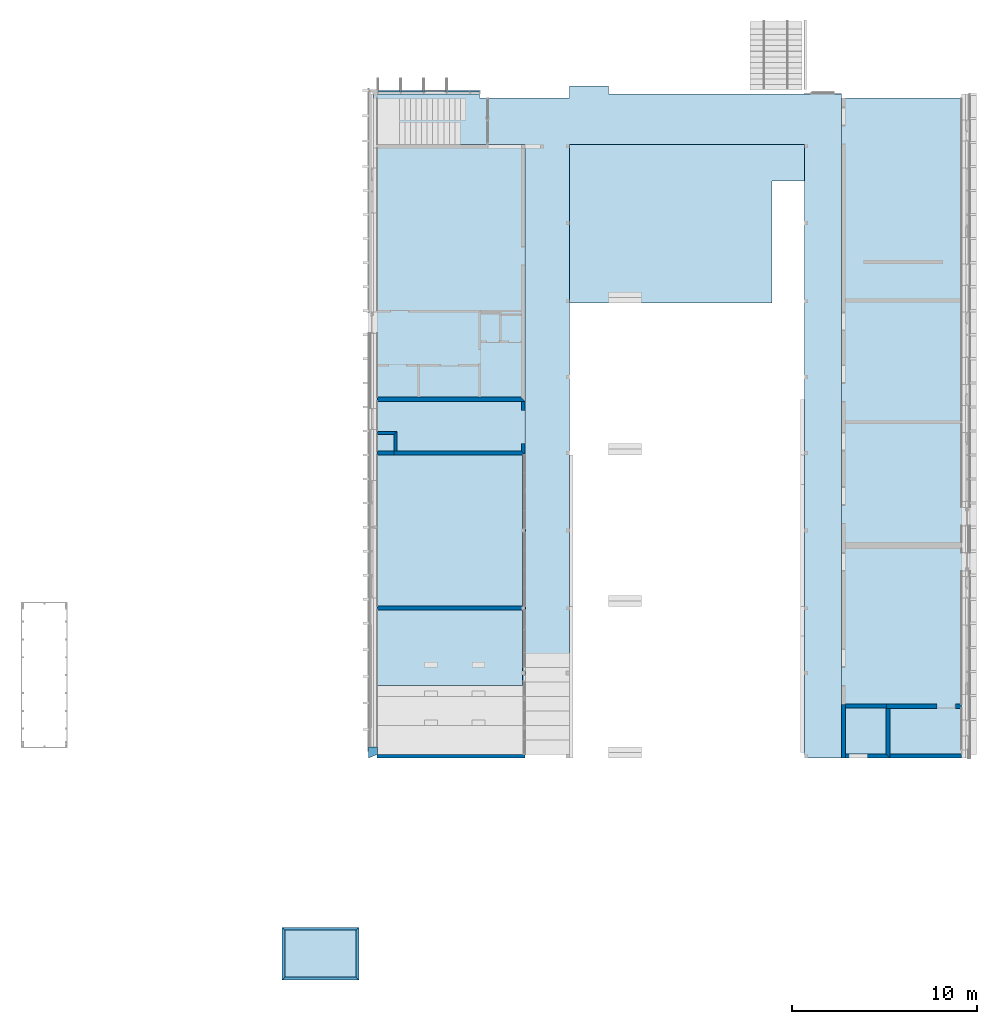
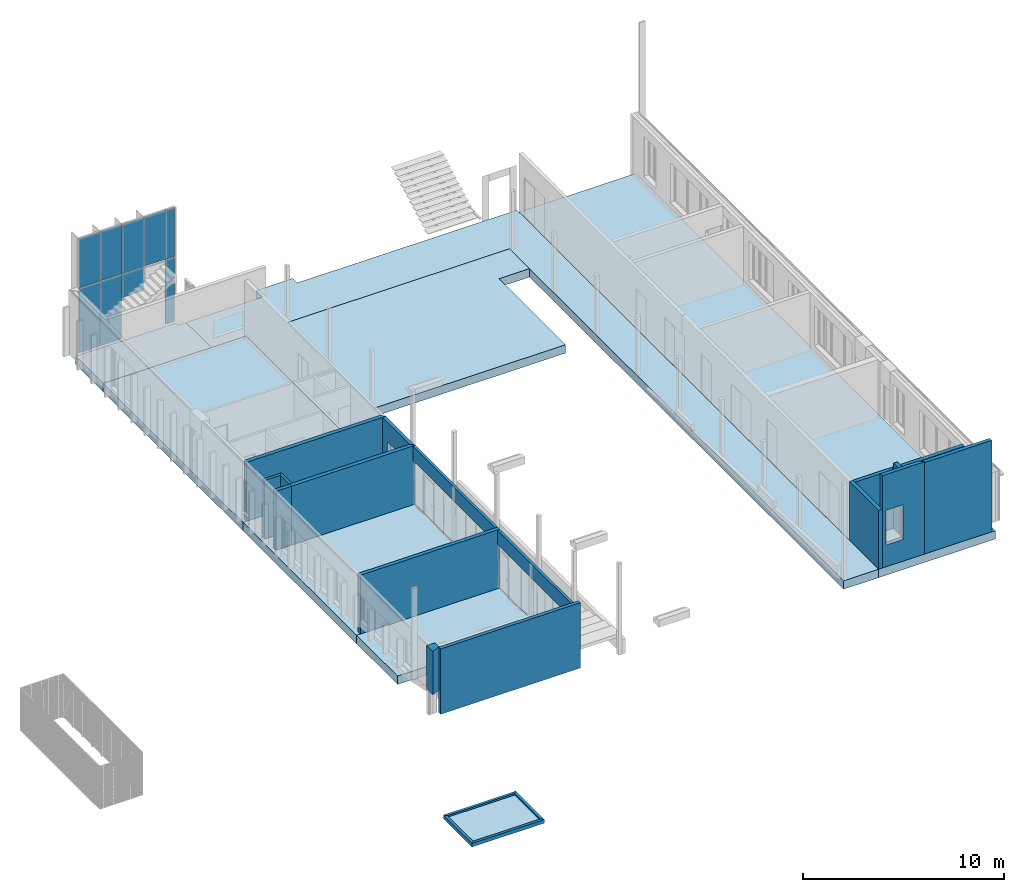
# One storey, part 8 of 65: 16 walls, 12 slabs, 9 plates, 3 openings, 1 element without a shape of its own.
"""IFC2X3 building model written with IfcOpenShell, lengths in millimetres."""

from ifc_helpers import new_model, entity, si_unit, converted_unit, derived_unit, money_unit, direction, frame, origin_with_axes, origin_2d_with_axis, place, context, subcontext, project, spatial, polyline, rectangle, outline, extrude, faceted_brep, material, layer, layer_set, layer_usage, type_object, element, aggregate, save


model = new_model("IFC2X3")

# Units and contexts
model_context = context("Model", 3, precision=0.01, world=origin_with_axes(), true_north=direction((0.0, 1.0)))
body_context = subcontext(model_context, "Body", "Model", "MODEL_VIEW")
ifc_project = project(units=[si_unit("LENGTHUNIT", "METRE", prefix="MILLI"), si_unit("AREAUNIT", "SQUARE_METRE"), si_unit("VOLUMEUNIT", "CUBIC_METRE"), converted_unit("PLANEANGLEUNIT", "DEGREE", entity("IfcPlaneAngleMeasure", 0.0174532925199), si_unit("PLANEANGLEUNIT", "RADIAN"), dimensions=[0, 0, 0, 0, 0, 0, 0]), si_unit("SOLIDANGLEUNIT", "STERADIAN"), money_unit("EUR"), converted_unit("TIMEUNIT", "Year", entity("IfcTimeMeasure", 31556926.0), si_unit("TIMEUNIT", "SECOND"), dimensions=[0, 0, 1, 0, 0, 0, 0]), si_unit("MASSUNIT", "GRAM", prefix="KILO"), si_unit("THERMODYNAMICTEMPERATUREUNIT", "DEGREE_CELSIUS"), si_unit("LUMINOUSINTENSITYUNIT", "LUMEN"), si_unit("ENERGYUNIT", "JOULE", prefix="MEGA"), derived_unit("THERMALCONDUCTANCEUNIT", [(si_unit("POWERUNIT", "WATT"), 1), (si_unit("LENGTHUNIT", "METRE"), -1), (si_unit("THERMODYNAMICTEMPERATUREUNIT", "KELVIN"), -1)]), derived_unit("SPECIFICHEATCAPACITYUNIT", [(si_unit("ENERGYUNIT", "JOULE"), 1), (si_unit("MASSUNIT", "GRAM", prefix="KILO"), -1), (si_unit("THERMODYNAMICTEMPERATUREUNIT", "KELVIN"), -1)]), derived_unit("MASSDENSITYUNIT", [(si_unit("MASSUNIT", "GRAM", prefix="KILO"), 1), (si_unit("VOLUMEUNIT", "CUBIC_METRE"), -1)])], contexts=[model_context])

# Site, building, storey
site_placement = place(None, origin_with_axes())
site = spatial("IfcSite", under=ifc_project, at=site_placement, Name="Puškini 31, Narva", CompositionType="ELEMENT")
building_placement = place(site_placement, origin_with_axes())
building = spatial("IfcBuilding", under=site, at=building_placement, Name="Narva Riigigümnaasium", CompositionType="ELEMENT")
storey_placement = place(building_placement, frame((0.0, 0.0, -1320.0), z_axis=(0.0, 0.0, 1.0), x_axis=(1.0, 0.0, 0.0)))
storey = spatial("IfcBuildingStorey", under=building, at=storey_placement, Name="1.korrus -1.32", CompositionType="ELEMENT", Elevation=-1320.0)

# Curtain wall, plates
curtain_wall_type = type_object("IfcCurtainWallType", Name="Curtain Wall Type", PredefinedType="NOTDEFINED")
curtain_wall_placement = place(storey_placement, frame((23044.9999985, 195055.000005, -0.000275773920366), z_axis=(0.0, 0.0, 1.0), x_axis=(1.0, 0.0, 0.0)))
curtain_wall = element("IfcCurtainWall", 1, at=curtain_wall_placement, inside=storey, type_object=curtain_wall_type, Name="G-KLF-04")
ifc_material_1 = material(Name="Klaas")
plate_type_1 = type_object("IfcPlateType", Name="Main Panel 1205 x 3915 x 58", PredefinedType="CURTAIN_PANEL")
plate_1_placement = place(curtain_wall_placement, frame((0.0, 0.0, 1980.00001312), z_axis=(0.0, 0.0, 1.0), x_axis=(-1.0, 0.0, 0.0)))
plate_1 = element("IfcPlate", 2, at=plate_1_placement, type_object=plate_type_1, material=ifc_material_1, Name="klaasfassaadi klaas", ObjectType="CURTAIN_PANEL", context=body_context, shape_type="SweptSolid", body=[
    extrude(outline(polyline([(-615.000027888, -1969.99999339), (590.000019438, -1969.99999339), (590.000019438, 1945.00003256), (-615.000027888, 1945.00003256), (-615.000027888, -1969.99999339)])), frame((0.0, -29.0, 0.0), z_axis=(0.0, 1.0, 0.0), x_axis=(1.0, 0.0, 0.0)), (0.0, 0.0, 1.0), 58.0),
])
plate_type_2 = type_object("IfcPlateType", Name="Main Panel 515 x 1450 x 58", PredefinedType="CURTAIN_PANEL")
plate_2_placement = place(curtain_wall_placement, frame((4599.0160704, 0.0, 2084.00010124), z_axis=(0.0, 0.0, 1.0), x_axis=(-1.0, 0.0, 0.0)))
plate_2 = element("IfcPlate", 3, at=plate_2_placement, type_object=plate_type_2, material=ifc_material_1, Name="klaasfassaadi klaas", ObjectType="CURTAIN_PANEL", context=body_context, shape_type="SweptSolid", body=[
    extrude(outline(polyline([(-301.024117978, -1865.99990527), (214.016050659, -1865.99990527), (214.016050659, 2049.00012068), (-301.024117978, 2049.00012068), (-301.024117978, -1865.99990527)])), frame((0.0, -29.0, 0.0), z_axis=(0.0, 1.0, 0.0), x_axis=(1.0, 0.0, 0.0)), (0.0, 0.0, 1.0), 58.0),
])
plate_type_3 = type_object("IfcPlateType", Name="Main Panel 1230 x 1450 x 58", PredefinedType="CURTAIN_PANEL")
plate_3_placement = place(curtain_wall_placement, frame((2379.99999812, 0.0, 3084.00019064), z_axis=(0.0, 0.0, 1.0), x_axis=(-1.0, 0.0, 0.0)))
plate_3 = element("IfcPlate", 4, at=plate_3_placement, type_object=plate_type_3, material=ifc_material_1, Name="klaasfassaadi klaas", ObjectType="CURTAIN_PANEL", context=body_context, shape_type="SweptSolid", body=[
    extrude(outline(polyline([(-735.000007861, -865.999844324), (495.000006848, -865.999844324), (495.000006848, 583.99989143), (480.000009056, 583.99989143), (480.000009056, 573.999878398), (-735.000007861, 573.999900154), (-735.000007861, -865.999844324)])), frame((0.0, -29.0, 0.0), z_axis=(0.0, 1.0, 0.0), x_axis=(1.0, 0.0, 0.0)), (0.0, 0.0, 1.0), 58.0),
])
plate_type_4 = type_object("IfcPlateType", Name="Main Panel 1205 x 2985 x 58", PredefinedType="CURTAIN_PANEL")
plate_4_placement = place(curtain_wall_placement, frame((0.0, 0.0, 5475.00010707), z_axis=(0.0, 0.0, 1.0), x_axis=(-1.0, 0.0, 0.0)))
plate_4 = element("IfcPlate", 5, at=plate_4_placement, type_object=plate_type_4, material=ifc_material_1, Name="klaasfassaadi klaas", ObjectType="CURTAIN_PANEL", context=body_context, shape_type="SweptSolid", body=[
    extrude(outline(polyline([(-615.000006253, -1480.00008611), (590.000005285, -1480.00008611), (590.000005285, 1505.00008879), (-615.000006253, 1505.00008879), (-615.000006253, -1480.00008611)])), frame((0.0, -29.0, 0.0), z_axis=(0.0, 1.0, 0.0), x_axis=(1.0, 0.0, 0.0)), (0.0, 0.0, 1.0), 58.0),
])
plate_type_5 = type_object("IfcPlateType", Name="Main Panel 1230 x 2985 x 58", PredefinedType="CURTAIN_PANEL")
plate_5_placement = place(curtain_wall_placement, frame((1250.0, 0.0, 5475.00010707), z_axis=(0.0, 0.0, 1.0), x_axis=(-1.0, 0.0, 0.0)))
plate_5 = element("IfcPlate", 6, at=plate_5_placement, type_object=plate_type_5, material=ifc_material_1, Name="klaasfassaadi klaas", ObjectType="CURTAIN_PANEL", context=body_context, shape_type="SweptSolid", body=[
    extrude(outline(polyline([(-615.000006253, -1480.00008611), (615.00000796, -1480.00008611), (615.00000796, 1505.00008879), (-615.000006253, 1505.00008879), (-615.000006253, -1480.00008611)])), frame((0.0, -29.0, 0.0), z_axis=(0.0, 1.0, 0.0), x_axis=(1.0, 0.0, 0.0)), (0.0, 0.0, 1.0), 58.0),
])
plate_6_placement = place(curtain_wall_placement, frame((2500.0, 0.0, 5475.00010707), z_axis=(0.0, 0.0, 1.0), x_axis=(-1.0, 0.0, 0.0)))
plate_6 = element("IfcPlate", 7, at=plate_6_placement, type_object=plate_type_5, material=ifc_material_1, Name="klaasfassaadi klaas", ObjectType="CURTAIN_PANEL", context=body_context, shape_type="SweptSolid", body=[
    extrude(outline(polyline([(-615.000006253, -1480.00008611), (615.00000796, -1480.00008611), (615.00000796, 1505.00008879), (-615.000006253, 1505.00008879), (-615.000006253, -1480.00008611)])), frame((0.0, -29.0, 0.0), z_axis=(0.0, 1.0, 0.0), x_axis=(1.0, 0.0, 0.0)), (0.0, 0.0, 1.0), 58.0),
])
plate_7_placement = place(curtain_wall_placement, frame((3750.0, 0.0, 5475.00010707), z_axis=(0.0, 0.0, 1.0), x_axis=(-1.0, 0.0, 0.0)))
plate_7 = element("IfcPlate", 8, at=plate_7_placement, type_object=plate_type_5, material=ifc_material_1, Name="klaasfassaadi klaas", ObjectType="CURTAIN_PANEL", context=body_context, shape_type="SweptSolid", body=[
    extrude(outline(polyline([(-615.000006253, -1480.00008611), (615.00000796, -1480.00008611), (615.00000796, 1505.00008879), (-615.000006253, 1505.00008879), (-615.000006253, -1480.00008611)])), frame((0.0, -29.0, 0.0), z_axis=(0.0, 1.0, 0.0), x_axis=(1.0, 0.0, 0.0)), (0.0, 0.0, 1.0), 58.0),
])
plate_type_6 = type_object("IfcPlateType", Name="Main Panel 515 x 2985 x 58", PredefinedType="CURTAIN_PANEL")
plate_8_placement = place(curtain_wall_placement, frame((4655.02008799, 0.0, 5475.00010707), z_axis=(0.0, 0.0, 1.0), x_axis=(-1.0, 0.0, 0.0)))
plate_8 = element("IfcPlate", 9, at=plate_8_placement, type_object=plate_type_6, material=ifc_material_1, Name="klaasfassaadi klaas", ObjectType="CURTAIN_PANEL", context=body_context, shape_type="SweptSolid", body=[
    extrude(outline(polyline([(-245.02010703, -1480.00008611), (270.020095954, -1480.00008611), (270.020095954, 1505.00008879), (-245.02010703, 1505.00008879), (-245.02010703, -1480.00008611)])), frame((0.0, -29.0, 0.0), z_axis=(0.0, 1.0, 0.0), x_axis=(1.0, 0.0, 0.0)), (0.0, 0.0, 1.0), 58.0),
])
plate_type_7 = type_object("IfcPlateType", Name="Main Panel 1230 x 3915 x 58", PredefinedType="CURTAIN_PANEL")
plate_9_placement = place(curtain_wall_placement, frame((1375.0, 0.0, 2084.00007034), z_axis=(0.0, 0.0, 1.0), x_axis=(-1.0, 0.0, 0.0)))
plate_9 = element("IfcPlate", 10, at=plate_9_placement, type_object=plate_type_7, material=ifc_material_1, Name="klaasfassaadi klaas", ObjectType="CURTAIN_PANEL", context=body_context, shape_type="SweptSolid", body=[
    extrude(outline(polyline([(-490.000027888, -1865.99993617), (739.999980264, -1865.99993617), (739.999980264, 2049.00008978), (-490.000027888, 2049.00008978), (-490.000027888, -1865.99993617)])), frame((0.0, -29.0, 0.0), z_axis=(0.0, 1.0, 0.0), x_axis=(1.0, 0.0, 0.0)), (0.0, 0.0, 1.0), 58.0),
])
aggregate(curtain_wall, [plate_1, plate_2, plate_3, plate_4, plate_5, plate_6, plate_7, plate_8, plate_9])

# Slabs
ifc_material_2 = material(Name="Salto-põrandakate")
ifc_layer_1 = layer(ifc_material_2, 10.0, ventilated="UNKNOWN")
ifc_material_3 = material(Name="KON-04_Betoon - Konstuktsioon")
ifc_layer_2 = layer(ifc_material_3, 100.0, ventilated="UNKNOWN")
ifc_material_4 = material(Name="SOJ-04_Soojustus - Mineraal Kõva")
ifc_layer_3 = layer(ifc_material_4, 100.0, ventilated="UNKNOWN")
ifc_material_5 = material(Name="VKK-03_Kruus")
ifc_layer_4 = layer(ifc_material_5, 200.0, ventilated="UNKNOWN")
ifc_layer_set_1 = layer_set([ifc_layer_1, ifc_layer_2, ifc_layer_3, ifc_layer_3, ifc_layer_4], Name="G-PP-01")
ifc_layer_usage_1 = layer_usage(ifc_layer_set_1, "AXIS3", "NEGATIVE", 510.0)
slab_type_1 = type_object("IfcSlabType", Name="G-PP-01 510", PredefinedType="NOTDEFINED")
slab_1_placement = place(storey_placement, frame((47499.9999928, 194700.0, 0.0), z_axis=(0.0, 0.0, 1.0), x_axis=(1.0, 0.0, 0.0)))
element("IfcSlab", 11, at=slab_1_placement, inside=storey, type_object=slab_type_1, material=ifc_layer_usage_1, Name="Põrand pinnasel", PredefinedType="NOTDEFINED", context=body_context, shape_type="SweptSolid", body=[
    extrude(outline(polyline([(0.0, 0.0), (1.63016977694e-06, -35699.9999999), (6700.00000824, -35699.9999998), (6700.00000824, -4.61852778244e-08), (0.0, 0.0)])), frame((0.0, 0.0, -510.0), z_axis=(0.0, 0.0, 1.0), x_axis=(1.0, 0.0, 0.0)), (0.0, 0.0, 1.0), 510.0),
])
slab_2_placement = place(storey_placement, frame((30399.9999991, 178290.00001, 0.0), z_axis=(0.0, 0.0, 1.0), x_axis=(1.0, 0.0, 0.0)))
element("IfcSlab", 12, at=slab_2_placement, inside=storey, type_object=slab_type_1, material=ifc_layer_usage_1, Name="Põrand pinnasel", PredefinedType="NOTDEFINED", context=body_context, shape_type="SweptSolid", body=[
    extrude(outline(polyline([(0.0, 0.0), (3.33294281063e-07, 13889.9999896), (-8199.99999906, 13889.9999896), (-8199.99999906, 0.0), (0.0, 0.0)])), frame((0.0, 0.0, -510.0), z_axis=(0.0, 0.0, 1.0), x_axis=(1.0, 0.0, 0.0)), (0.0, 0.0, 1.0), 510.0),
])
slab_3_placement = place(storey_placement, frame((32799.9999991, 183600.000004, 0.0), z_axis=(0.0, 0.0, 1.0), x_axis=(1.0, 0.0, 0.0)))
element("IfcSlab", 13, at=slab_3_placement, inside=storey, type_object=slab_type_1, material=ifc_layer_usage_1, Name="Põrand pinnasel", PredefinedType="NOTDEFINED", context=body_context, shape_type="SweptSolid", body=[
    extrude(outline(polyline([(0.0, 0.0), (10959.9999988, 0.0), (10960.0000001, 6599.9999968), (12700.0000005, 6599.99999647), (12699.9999993, 8579.99999592), (0.0, 8579.99999592), (0.0, 0.0)])), frame((0.0, 0.0, -510.0), z_axis=(0.0, 0.0, 1.0), x_axis=(1.0, 0.0, 0.0)), (0.0, 0.0, 1.0), 510.0),
])
ifc_layer_5 = layer(ifc_material_3, 110.0, ventilated="UNKNOWN")
ifc_layer_set_2 = layer_set([ifc_layer_5, ifc_layer_3, ifc_layer_3, ifc_layer_4], Name="G-PP-01*")
ifc_layer_usage_2 = layer_usage(ifc_layer_set_2, "AXIS3", "NEGATIVE", 510.0)
slab_type_2 = type_object("IfcSlabType", Name="G-PP-01* 510", PredefinedType="NOTDEFINED")
slab_4_placement = place(storey_placement, frame((22200.0, 192180.0, 0.0), z_axis=(0.0, 0.0, 1.0), x_axis=(1.0, 0.0, 0.0)))
element("IfcSlab", 14, at=slab_4_placement, inside=storey, type_object=slab_type_2, material=ifc_layer_usage_2, Name="Põrand pinnasel", PredefinedType="NOTDEFINED", context=body_context, shape_type="SweptSolid", body=[
    extrude(outline(polyline([(0.0, 0.0), (6199.9562802, 0.0), (6199.9562802, 2520.00000036), (5739.34238966, 2520.00000035), (5739.34238966, 2720.00000001), (0.0, 2720.00000001), (0.0, 0.0)])), frame((0.0, 0.0, -510.0), z_axis=(0.0, 0.0, 1.0), x_axis=(1.0, 0.0, 0.0)), (0.0, 0.0, 1.0), 510.0),
])
slab_5_placement = place(storey_placement, frame((28399.9562802, 194700.0, 0.0), z_axis=(0.0, 0.0, 1.0), x_axis=(1.0, 0.0, 0.0)))
element("IfcSlab", 15, at=slab_5_placement, inside=storey, type_object=slab_type_2, material=ifc_layer_usage_2, Name="Põrand pinnasel", PredefinedType="NOTDEFINED", context=body_context, shape_type="SweptSolid", body=[
    extrude(outline(polyline([(0.0, 0.0), (-0.000190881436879, -2520.00000036), (2000.04371919, -2520.00000036), (2000.04371868, -30987.0726452), (4400.04371887, -30987.0726452), (4400.04371887, -2520.00000036), (17100.0437158, -2520.00000036), (17100.0437158, -35700.2115309), (19100.0437142, -35700.2115309), (19100.0437126, 199.99999993), (6500.04371945, 199.999999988), (6500.04371945, 649.999999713), (4410.04371266, 649.999999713), (4410.04371266, 7.44364569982e-08), (0.0, 0.0)])), frame((0.0, 0.0, -510.0), z_axis=(0.0, 0.0, 1.0), x_axis=(1.0, 0.0, 0.0)), (0.0, 0.0, 1.0), 510.0),
])
slab_6_placement = place(storey_placement, frame((22200.0, 162929.714749, 0.0), z_axis=(0.0, 0.0, 1.0), x_axis=(1.0, 0.0, 0.0)))
element("IfcSlab", 16, at=slab_6_placement, inside=storey, type_object=slab_type_2, material=ifc_layer_usage_2, Name="Põrand pinnasel", PredefinedType="NOTDEFINED", context=body_context, shape_type="SweptSolid", body=[
    extrude(outline(polyline([(0.0, 0.0), (8199.99999879, 0.0), (8199.99999879, 4080.28519001), (0.0, 4080.28519001), (0.0, 0.0)])), frame((0.0, 0.0, -510.0), z_axis=(0.0, 0.0, 1.0), x_axis=(1.0, 0.0, 0.0)), (0.0, 0.0, 1.0), 510.0),
])
slab_7_placement = place(storey_placement, frame((22200.0, 167009.999936, 0.0), z_axis=(0.0, 0.0, 1.0), x_axis=(1.0, 0.0, 0.0)))
element("IfcSlab", 17, at=slab_7_placement, inside=storey, type_object=slab_type_2, material=ifc_layer_usage_2, Name="Põrand pinnasel", PredefinedType="NOTDEFINED", context=body_context, shape_type="SweptSolid", body=[
    extrude(outline(polyline([(0.0, 0.0), (8199.99999879, 0.0), (8199.99999906, 11280.0000748), (0.0, 11280.0000748), (0.0, 0.0)])), frame((0.0, 0.0, -510.0), z_axis=(0.0, 0.0, 1.0), x_axis=(1.0, 0.0, 0.0)), (0.0, 0.0, 1.0), 510.0),
])
ifc_material_6 = material(Name="Concrete - Structural")
slab_type_3 = type_object("IfcSlabType", Name="Concrete - Structural 150", PredefinedType="FLOOR")
slab_8_placement = place(storey_placement, frame((17263.683687, 147000.001258, 1024.99954789), z_axis=(0.0, 0.0, 1.0), x_axis=(1.0, 0.0, 0.0)))
element("IfcSlab", 18, at=slab_8_placement, inside=storey, type_object=slab_type_3, material=ifc_material_6, Name="Poriresti betoonalus", PredefinedType="FLOOR", context=body_context, shape_type="SweptSolid", body=[
    extrude(outline(polyline([(0.0, 0.0), (4149.99999301, 0.0), (3999.99999301, 150.0), (150.0, 150.0), (0.0, 0.0)])), origin_with_axes(), (0.0, 0.0, 1.0), 220.000452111),
])
slab_9_placement = place(storey_placement, frame((21413.68368, 147000.001258, 1024.99954789), z_axis=(0.0, 0.0, 1.0), x_axis=(0.0, 1.0, 0.0)))
element("IfcSlab", 19, at=slab_9_placement, inside=storey, type_object=slab_type_3, material=ifc_material_6, Name="Poriresti betoonalus", PredefinedType="FLOOR", context=body_context, shape_type="SweptSolid", body=[
    extrude(outline(polyline([(0.0, 0.0), (2843.10759653, 0.0), (2693.10759653, 150.0), (150.0, 150.0), (0.0, 0.0)])), origin_with_axes(), (0.0, 0.0, 1.0), 220.000452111),
])
slab_10_placement = place(storey_placement, frame((21413.68368, 149843.108855, 1024.99954789), z_axis=(0.0, 0.0, 1.0), x_axis=(-1.0, 0.0, 0.0)))
element("IfcSlab", 20, at=slab_10_placement, inside=storey, type_object=slab_type_3, material=ifc_material_6, Name="Poriresti betoonalus", PredefinedType="FLOOR", context=body_context, shape_type="SweptSolid", body=[
    extrude(outline(polyline([(0.0, 0.0), (4149.99999301, 0.0), (3999.99999301, 150.0), (150.0, 150.0), (0.0, 0.0)])), origin_with_axes(), (0.0, 0.0, 1.0), 220.000452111),
])
slab_11_placement = place(storey_placement, frame((17263.683687, 149843.108855, 1024.99954789), z_axis=(0.0, 0.0, 1.0), x_axis=(0.0, -1.0, 0.0)))
element("IfcSlab", 21, at=slab_11_placement, inside=storey, type_object=slab_type_3, material=ifc_material_6, Name="Poriresti betoonalus", PredefinedType="FLOOR", context=body_context, shape_type="SweptSolid", body=[
    extrude(outline(polyline([(0.0, 0.0), (2843.10759653, 0.0), (2693.10759653, 150.0), (150.0, 150.0), (0.0, 0.0)])), origin_with_axes(), (0.0, 0.0, 1.0), 220.000452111),
])
slab_type_4 = type_object("IfcSlabType", Name="Concrete - Structural", PredefinedType="FLOOR")
slab_12_placement = place(storey_placement, frame((17413.683687, 147150.001258, 1024.99954789), z_axis=(0.0, 0.0, 1.0), x_axis=(1.0, 0.0, 0.0)))
element("IfcSlab", 22, at=slab_12_placement, inside=storey, type_object=slab_type_4, material=ifc_material_6, Name="Poriresti betoonalus", PredefinedType="FLOOR", context=body_context, shape_type="Brep", body=[
    faceted_brep([(2024.9999965, 1371.55316962, 100.0), (2024.9999965, 1171.55316962, 100.0), (3849.99999301, 0.0, 120.0), (3849.99999301, 2543.10759653, 120.0), (1824.9999965, 1371.55316962, 100.0), (1824.9999965, 1171.55316962, 100.0), (0.0, 0.0, 120.0), (3849.99999301, 2543.10759653, 0.0), (3849.99999301, 0.0, 0.0), (0.0, 2543.10759653, 120.0), (0.0, 0.0, 0.0), (0.0, 2543.10759653, 0.0)], [[[0, 1, 2, 3]], [[4, 5, 1, 0]], [[6, 2, 1, 5]], [[7, 3, 2, 8]], [[4, 0, 3, 9]], [[9, 6, 5, 4]], [[8, 2, 6, 10]], [[11, 9, 3, 7]], [[11, 7, 8, 10]], [[10, 6, 9, 11]]]),
])

# Walls
ifc_material_7 = material(Name="fassaadiplaat")
ifc_layer_6 = layer(ifc_material_7, 8.0, ventilated="UNKNOWN")
ifc_material_8 = material(Name="Salto-roovitus")
ifc_layer_7 = layer(ifc_material_8, 50.0, ventilated="UNKNOWN")
ifc_material_9 = material(Name="Salto-PIR soojustus")
ifc_layer_8 = layer(ifc_material_9, 50.0, ventilated="UNKNOWN")
ifc_layer_9 = layer(ifc_material_9, 150.0, ventilated="UNKNOWN")
ifc_material_10 = material(Name="Betoon element")
ifc_layer_10 = layer(ifc_material_10, 200.0, ventilated="UNKNOWN")
ifc_material_11 = material(Name="Salto-siseviimistlus-seinad")
ifc_layer_11 = layer(ifc_material_11, 10.0, ventilated="UNKNOWN")
ifc_layer_set_3 = layer_set([ifc_layer_6, ifc_layer_7, ifc_layer_8, ifc_layer_9, ifc_layer_10, ifc_layer_11], Name="G-VS-01")
ifc_layer_usage_3 = layer_usage(ifc_layer_set_3, "AXIS2", "NEGATIVE", 458.0)
wall_type_1 = type_object("IfcWallType", Name="G-VS-01 468", PredefinedType="NOTDEFINED")
wall_1_placement = place(storey_placement, frame((22399.9999985, 159199.999992, 1320.0), z_axis=(0.0, 0.0, 1.0), x_axis=(0.0, 1.0, 0.0)))
element("IfcWallStandardCase", 23, at=wall_1_placement, inside=storey, type_object=wall_type_1, material=ifc_layer_usage_3, Name="Välissein", context=body_context, shape_type="SweptSolid", body=[
    extrude(outline(polyline([(0.0, -10.0), (410.000008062, -10.0), (410.000008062, 458.0), (-200.0, 458.0), (0.0, -10.0)])), origin_with_axes(), (0.0, 0.0, 1.0), 2640.0),
])
ifc_layer_set_4 = layer_set([ifc_layer_10], Name="G-SS-01")
ifc_layer_usage_4 = layer_usage(ifc_layer_set_4, "AXIS2", "NEGATIVE", 0.0)
wall_type_2 = type_object("IfcWallType", Name="G-SS-01 200", PredefinedType="NOTDEFINED")
wall_2_placement = place(storey_placement, frame((22399.9999985, 159199.999992, 0.0), z_axis=(0.0, 0.0, 1.0), x_axis=(1.0, 0.0, 0.0)))
element("IfcWallStandardCase", 24, at=wall_2_placement, inside=storey, type_object=wall_type_2, material=ifc_layer_usage_4, Name="Sisesein", context=body_context, shape_type="SweptSolid", body=[
    extrude(outline(polyline([(0.0, -200.0), (8000.00000033, -200.0), (8000.00000033, 0.0), (0.0, 0.0), (0.0, -200.0)])), origin_with_axes(), (0.0, 0.0, 1.0), 3960.0),
])
ifc_material_12 = material(Name="SKR-02_Kipsplaat")
ifc_layer_12 = layer(ifc_material_12, 12.5, ventilated="UNKNOWN")
ifc_material_13 = material(Name="SOJ-03_Soojustus - Mineraal Pehme")
ifc_layer_13 = layer(ifc_material_13, 100.0, ventilated="UNKNOWN")
ifc_layer_set_5 = layer_set([ifc_layer_12, ifc_layer_12, ifc_layer_13, ifc_layer_12, ifc_layer_12], Name="G-SS-09")
ifc_layer_usage_5 = layer_usage(ifc_layer_set_5, "AXIS2", "NEGATIVE", 0.0)
wall_type_3 = type_object("IfcWallType", Name="G-SS-09 150", PredefinedType="NOTDEFINED")
wall_3_placement = place(storey_placement, frame((30409.9999994, 175390.000115, 2699.99992456), z_axis=(0.0, 0.0, 1.0), x_axis=(0.0, -1.0, 0.0)))
element("IfcWallStandardCase", 25, at=wall_3_placement, inside=storey, type_object=wall_type_3, material=ifc_layer_usage_5, Name="Sisesein", context=body_context, shape_type="SweptSolid", body=[
    extrude(outline(polyline([(0.0, -150.0), (16190.0001163, -150.0), (16190.0001163, 0.0), (0.0, 0.0), (0.0, -150.0)])), origin_with_axes(), (0.0, 0.0, 1.0), 855.0),
])
ifc_material_14 = material(Name="siseviimistlus-seinad")
ifc_layer_14 = layer(ifc_material_14, 10.0, ventilated="UNKNOWN")
ifc_layer_set_6 = layer_set([ifc_layer_10, ifc_layer_14], Name="G-SS-01-02")
ifc_layer_usage_6 = layer_usage(ifc_layer_set_6, "AXIS2", "POSITIVE", -200.0)
wall_type_4 = type_object("IfcWallType", Name="G-SS-01-02 210", PredefinedType="NOTDEFINED")
wall_4_placement = place(storey_placement, frame((50130.0690281, 159200.0, 0.0), z_axis=(0.0, 0.0, 1.0), x_axis=(1.0, 0.0, 0.0)))
element("IfcWallStandardCase", 26, at=wall_4_placement, inside=storey, type_object=wall_type_4, material=ifc_layer_usage_6, Name="Sisesein", context=body_context, shape_type="SweptSolid", body=[
    extrude(outline(polyline([(10.0266016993, -200.0), (3859.93097293, -200.0), (3859.93097293, 10.0), (9.9986700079, 10.0), (10.0266016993, -200.0)])), origin_with_axes(), (0.0, 0.0, 1.0), 5540.0),
])

# Wall, opening
ifc_layer_usage_7 = layer_usage(ifc_layer_set_6, "AXIS2", "NEGATIVE", 0.0)
wall_5_placement = place(storey_placement, frame((30399.9999994, 178500.00001, 0.0), z_axis=(0.0, 0.0, 1.0), x_axis=(0.0, -1.0, 0.0)))
wall_5 = element("IfcWallStandardCase", 27, at=wall_5_placement, inside=storey, type_object=wall_type_4, material=ifc_layer_usage_7, Name="Sisesein", context=body_context, shape_type="SweptSolid", body=[
    extrude(outline(polyline([(210.0, -210.0), (2889.99989486, -210.0), (3109.99989486, 0.0), (210.0, 0.0), (210.0, -210.0)])), origin_with_axes(), (0.0, 0.0, 1.0), 3565.0),
])
opening_1_placement = place(wall_5_placement, frame((1600.00000015, 0.0, 0.0), z_axis=(0.0, 0.0, 1.0), x_axis=(1.0, 0.0, 0.0)))
element("IfcOpeningElement", 28, at=opening_1_placement, cuts=wall_5, Name="G-SU-002", context=body_context, shape_type="SweptSolid", body=[
    extrude(rectangle(XDim=1799.99999996, YDim=2400.0, at=origin_2d_with_axis()), frame((0.0, -210.0, 1200.0), z_axis=(0.0, 1.0, 0.0), x_axis=(1.0, 0.0, 0.0)), (0.0, 0.0, 1.0), 630.0),
])

# Walls
ifc_layer_usage_8 = layer_usage(ifc_layer_set_6, "AXIS2", "POSITIVE", 0.0)
wall_6_placement = place(storey_placement, frame((47499.9999937, 161700.0, 0.0), z_axis=(0.0, 0.0, 1.0), x_axis=(1.0, 0.0, 0.0)))
element("IfcWallStandardCase", 29, at=wall_6_placement, inside=storey, type_object=wall_type_4, material=ifc_layer_usage_8, Name="Sisesein", context=body_context, shape_type="SweptSolid", body=[
    extrude(outline(polyline([(215.000000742, 0.0), (2429.73651252, 0.0), (2429.73651252, 210.0), (215.000000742, 210.0), (215.000000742, 0.0)])), origin_with_axes(), (0.0, 0.0, 1.0), 3565.0),
])
wall_7_placement = place(storey_placement, frame((23309.9999985, 175600.000115, 0.0), z_axis=(0.0, 0.0, 1.0), x_axis=(-1.0, 0.0, 0.0)))
element("IfcWallStandardCase", 30, at=wall_7_placement, inside=storey, type_object=wall_type_4, material=ifc_layer_usage_8, Name="Sisesein", context=body_context, shape_type="SweptSolid", body=[
    extrude(outline(polyline([(0.0, 0.0), (900.0, 0.0), (900.0, 210.0), (0.0, 210.0), (0.0, 0.0)])), origin_with_axes(), (0.0, 0.0, 1.0), 3565.0),
])
ifc_layer_set_7 = layer_set([ifc_layer_14, ifc_layer_10, ifc_layer_14], Name="G-SS-01-01")
ifc_layer_usage_9 = layer_usage(ifc_layer_set_7, "AXIS2", "POSITIVE", -10.0)
wall_type_5 = type_object("IfcWallType", Name="G-SS-01-01 220", PredefinedType="NOTDEFINED")
wall_8_placement = place(storey_placement, frame((30399.9999988, 178500.00001, 0.0), z_axis=(0.0, 0.0, 1.0), x_axis=(-1.0, 0.0, 0.0)))
element("IfcWallStandardCase", 31, at=wall_8_placement, inside=storey, type_object=wall_type_5, material=ifc_layer_usage_9, Name="Sisesein", context=body_context, shape_type="SweptSolid", body=[
    extrude(outline(polyline([(214.999999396, -9.99999999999), (7990.00000033, -9.99999999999), (7990.00000033, 210.0), (-6.03954219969e-07, 210.0), (214.999999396, -9.99999999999)])), origin_with_axes(), (0.0, 0.0, 1.0), 3565.0),
])

# Wall, opening
wall_9_placement = place(storey_placement, frame((49929.7365062, 161700.0, 0.0), z_axis=(0.0, 0.0, 1.0), x_axis=(1.0, 0.0, 0.0)))
wall_9 = element("IfcWallStandardCase", 32, at=wall_9_placement, inside=storey, type_object=wall_type_5, material=ifc_layer_usage_9, Name="Sisesein", context=body_context, shape_type="SweptSolid", body=[
    extrude(outline(polyline([(0.0, -9.99999999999), (4060.26349483, -9.99999999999), (4060.26349483, 210.0), (0.0, 210.0), (0.0, -9.99999999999)])), origin_with_axes(), (0.0, 0.0, 1.0), 3565.0),
])
opening_2_placement = place(wall_9_placement, frame((3230.26350005, 0.0, 0.0), z_axis=(0.0, 0.0, 1.0), x_axis=(1.0, 0.0, 0.0)))
element("IfcOpeningElement", 33, at=opening_2_placement, cuts=wall_9, Name="G-SU-014", context=body_context, shape_type="SweptSolid", body=[
    extrude(rectangle(XDim=1000.0, YDim=2400.0, at=origin_2d_with_axis()), frame((0.0, 220.0, 1200.0), z_axis=(0.0, 1.0, 0.0), x_axis=(1.0, 0.0, 0.0)), (0.0, 0.0, -1.0), 660.0),
])

# Wall
wall_10_placement = place(storey_placement, frame((30399.999999, 175600.000115, 0.0), z_axis=(0.0, 0.0, 1.0), x_axis=(-1.0, 0.0, 0.0)))
element("IfcWallStandardCase", 34, at=wall_10_placement, inside=storey, type_object=wall_type_5, material=ifc_layer_usage_9, Name="Sisesein", context=body_context, shape_type="SweptSolid", body=[
    extrude(outline(polyline([(209.999999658, -9.99999999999), (7090.0000006, -9.99999999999), (7090.0000006, 210.0), (-3.42016193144e-07, 210.0), (209.999999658, -9.99999999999)])), origin_with_axes(), (0.0, 0.0, 1.0), 3565.0),
])

# Wall, opening
ifc_layer_15 = layer(ifc_material_14, 15.0, ventilated="UNKNOWN")
ifc_layer_set_8 = layer_set([ifc_layer_10, ifc_layer_15], Name="G-SS-01-03")
ifc_layer_usage_10 = layer_usage(ifc_layer_set_8, "AXIS2", "POSITIVE", -200.0)
wall_type_6 = type_object("IfcWallType", Name="G-SS-01-03 215", PredefinedType="NOTDEFINED")
wall_11_placement = place(storey_placement, frame((47499.9999944, 159200.0, 0.0), z_axis=(0.0, 0.0, 1.0), x_axis=(1.0, 0.0, 0.0)))
wall_11 = element("IfcWallStandardCase", 35, at=wall_11_placement, inside=storey, type_object=wall_type_6, material=ifc_layer_usage_10, Name="Sisesein", context=body_context, shape_type="SweptSolid", body=[
    extrude(outline(polyline([(215.0, -200.0), (2640.09563538, -200.0), (2415.06703666, 15.0), (215.0, 15.0), (215.0, -200.0)])), origin_with_axes(), (0.0, 0.0, 1.0), 5590.0),
])
opening_3_placement = place(wall_11_placement, frame((910.0, 0.0, 1320.0), z_axis=(0.0, 0.0, 1.0), x_axis=(1.0, 0.0, 0.0)))
element("IfcOpeningElement", 36, at=opening_3_placement, cuts=wall_11, Name="G-SU-001", context=body_context, shape_type="SweptSolid", body=[
    extrude(rectangle(XDim=1000.0, YDim=2100.0, at=origin_2d_with_axis()), frame((0.0, 215.0, 1050.0), z_axis=(0.0, 1.0, 0.0), x_axis=(1.0, 0.0, 0.0)), (0.0, 0.0, -1.0), 645.0),
])

# Walls
ifc_layer_usage_11 = layer_usage(ifc_layer_set_8, "AXIS2", "POSITIVE", 0.0)
wall_12_placement = place(storey_placement, frame((47499.9999944, 161900.0, 0.0), z_axis=(0.0, 0.0, 1.0), x_axis=(0.0, -1.0, 0.0)))
element("IfcWallStandardCase", 37, at=wall_12_placement, inside=storey, type_object=wall_type_6, material=ifc_layer_usage_11, Name="Sisesein", context=body_context, shape_type="SweptSolid", body=[
    extrude(outline(polyline([(0.0, 0.0), (2899.9999999, 0.0), (2899.9999999, 215.0), (0.0, 215.0), (0.0, 0.0)])), origin_with_axes(), (0.0, 0.0, 1.0), 3565.0),
])
ifc_material_15 = material(Name="õõnes betoonplokk")
ifc_layer_16 = layer(ifc_material_15, 190.0, ventilated="UNKNOWN")
ifc_layer_set_9 = layer_set([ifc_layer_14, ifc_layer_16, ifc_layer_14], Name="G-SS-02")
ifc_layer_usage_12 = layer_usage(ifc_layer_set_9, "AXIS2", "POSITIVE", -10.0)
wall_type_7 = type_object("IfcWallType", Name="G-SS-02 210", PredefinedType="NOTDEFINED")
wall_13_placement = place(storey_placement, frame((30399.9999988, 167199.999936, 0.0), z_axis=(0.0, 0.0, 1.0), x_axis=(-1.0, 0.0, 0.0)))
element("IfcWallStandardCase", 38, at=wall_13_placement, inside=storey, type_object=wall_type_7, material=ifc_layer_usage_12, Name="Sisesein", context=body_context, shape_type="SweptSolid", body=[
    extrude(outline(polyline([(0.0, -9.99999999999), (7990.00000033, -9.99999999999), (7990.00000033, 200.0), (0.0, 200.0), (0.0, -9.99999999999)])), origin_with_axes(), (0.0, 0.0, 1.0), 3565.0),
])
ifc_layer_set_10 = layer_set([ifc_layer_14, ifc_layer_10, ifc_layer_15], Name="G-SS-01-04")
ifc_layer_usage_13 = layer_usage(ifc_layer_set_10, "AXIS2", "POSITIVE", -10.0)
wall_type_8 = type_object("IfcWallType", Name="G-SS-01-04 225", PredefinedType="NOTDEFINED")
wall_14_placement = place(storey_placement, frame((50130.0690281, 159200.0, 0.0), z_axis=(0.0, 0.0, 1.0), x_axis=(-0.000133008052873, 0.999999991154, 0.0)))
element("IfcWallStandardCase", 39, at=wall_14_placement, inside=storey, type_object=wall_type_8, material=ifc_layer_usage_13, Name="Sisesein", context=body_context, shape_type="SweptSolid", body=[
    extrude(outline(polyline([(-200.00133185, -10.0), (2489.99869184, -10.0), (2490.02861865, 215.0), (15.0285968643, 215.0), (-200.00133185, -10.0)])), origin_with_axes(), (0.0, 0.0, 1.0), 3960.0),
])
ifc_material_16 = material(Name="kergbetoonplokk")
ifc_layer_17 = layer(ifc_material_16, 150.0, ventilated="UNKNOWN")
ifc_layer_set_11 = layer_set([ifc_layer_14, ifc_layer_17], Name="G-SS-04-01")
ifc_layer_usage_14 = layer_usage(ifc_layer_set_11, "AXIS2", "NEGATIVE", 10.0)
wall_type_9 = type_object("IfcWallType", Name="G-SS-04-01 160", PredefinedType="NOTDEFINED")
wall_15_placement = place(storey_placement, frame((22399.9999985, 176650.000115, 0.0), z_axis=(0.0, 0.0, 1.0), x_axis=(1.0, 0.0, 0.0)))
element("IfcWallStandardCase", 40, at=wall_15_placement, inside=storey, type_object=wall_type_9, material=ifc_layer_usage_14, Name="Sisesein", context=body_context, shape_type="SweptSolid", body=[
    extrude(outline(polyline([(10.0, -150.0), (910.0, -150.0), (1070.0, 9.99999999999), (10.0, 9.99999999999), (10.0, -150.0)])), origin_with_axes(), (0.0, 0.0, 1.0), 3555.0),
])
ifc_layer_usage_15 = layer_usage(ifc_layer_set_11, "AXIS2", "POSITIVE", -10.0)
wall_16_placement = place(storey_placement, frame((23459.9999985, 175600.000115, 0.0), z_axis=(0.0, 0.0, 1.0), x_axis=(0.0, 1.0, 0.0)))
element("IfcWallStandardCase", 41, at=wall_16_placement, inside=storey, type_object=wall_type_9, material=ifc_layer_usage_15, Name="Sisesein", context=body_context, shape_type="SweptSolid", body=[
    extrude(outline(polyline([(9.99999999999, -10.0), (1060.0, -10.0), (900.0, 150.0), (9.99999999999, 150.0), (9.99999999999, -10.0)])), origin_with_axes(), (0.0, 0.0, 1.0), 3555.0),
])

save(model, "model.ifc")
